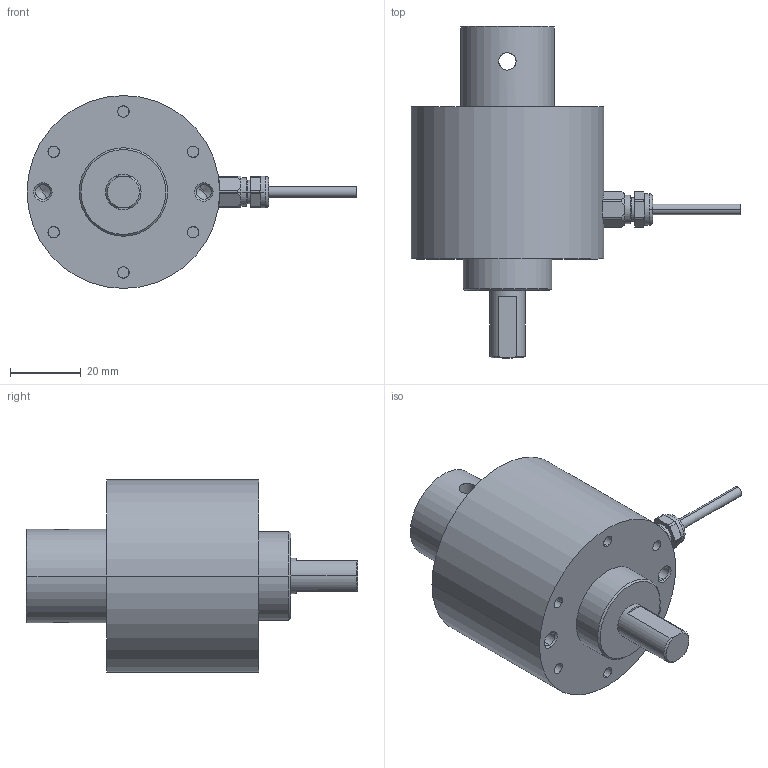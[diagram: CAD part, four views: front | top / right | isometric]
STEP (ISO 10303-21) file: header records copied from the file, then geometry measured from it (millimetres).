
FILE_DESCRIPTION(('STEP AP203'),'1');
FILE_NAME('C:/TPO v2/SharedFS/Outgoing/burster_8451-6001_e1b9snewe06fi3ur3f2mqiy2g.stp','2013-08-27T17:30:12',('TraceParts'),('TraceParts S.A.'),'XStep 1.0',' ',' ');
FILE_SCHEMA(('CONFIG_CONTROL_DESIGN'));
Length unit declared in the file: millimetre
Products named in the file (1): 1
Bounding box: 93.3 x 93.85 x 54.5 mm (x, y, z)
Volume: 116110.2 mm3; surface area: 19000.4 mm2
Topology: 1 solids, 1 shells, 233 faces, 601 edges, 386 vertices
Faces by surface type: cylinder 80, plane 79, cone 56, torus 16, bspline 2
Entity records: 7225 total; most frequent: CARTESIAN_POINT 1581, DIRECTION 1223, ORIENTED_EDGE 1170, EDGE_CURVE 585, AXIS2_PLACEMENT_3D 500, VERTEX_POINT 386, EDGE_LOOP 269, CIRCLE 264
